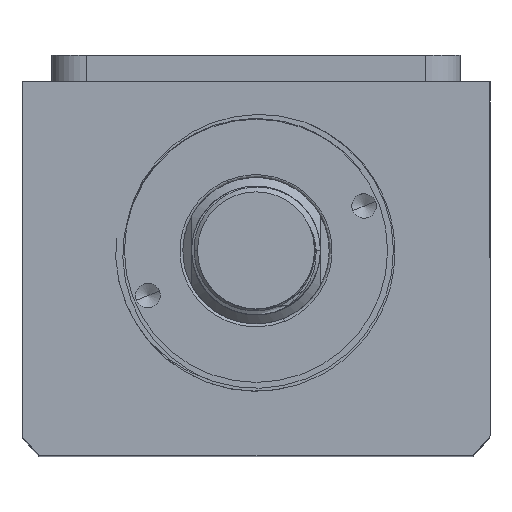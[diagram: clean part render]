
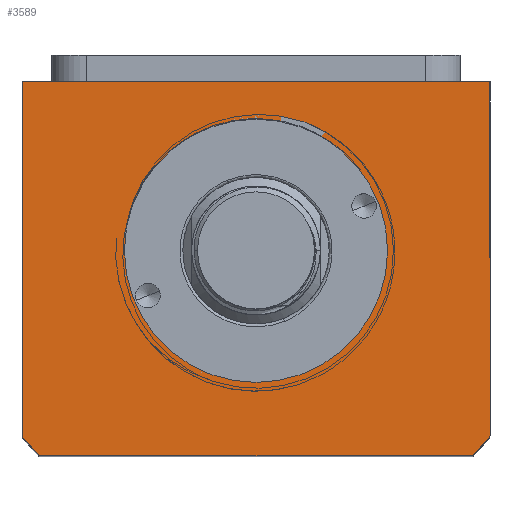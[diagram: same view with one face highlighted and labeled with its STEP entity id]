
A CAD part, top view. The second image highlights one B-rep face of the part: STEP entity #3589.
In plain terms, the highlighted planar face has unit normal (0, 0, 1).
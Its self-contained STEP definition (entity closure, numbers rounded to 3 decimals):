
#64 = DIRECTION ( 'NONE',  ( 0., 0., 1. ) ) ;
#135 = DIRECTION ( 'NONE',  ( 0., 1., 0. ) ) ;
#227 = DIRECTION ( 'NONE',  ( 0., 0., 1. ) ) ;
#416 = EDGE_CURVE ( 'NONE', #7902, #13447, #8348, .T. ) ;
#464 = CARTESIAN_POINT ( 'NONE',  ( 40., -28.639, 135. ) ) ;
#961 = DIRECTION ( 'NONE',  ( -1., 0., 0. ) ) ;
#1197 = DIRECTION ( 'NONE',  ( 1., 0., 0. ) ) ;
#1206 = ORIENTED_EDGE ( 'NONE', *, *, #11802, .T. ) ;
#1265 = ORIENTED_EDGE ( 'NONE', *, *, #2291, .T. ) ;
#1314 = CARTESIAN_POINT ( 'NONE',  ( -40., 32., 135. ) ) ;
#1422 = VERTEX_POINT ( 'NONE', #7743 ) ;
#2054 = VECTOR ( 'NONE', #3369, 1000. ) ;
#2111 = AXIS2_PLACEMENT_3D ( 'NONE', #4995, #12476, #6063 ) ;
#2291 = EDGE_CURVE ( 'NONE', #5690, #3729, #4008, .T. ) ;
#2384 = ORIENTED_EDGE ( 'NONE', *, *, #13154, .F. ) ;
#2394 = CIRCLE ( 'NONE', #3214, 51. ) ;
#2667 = CARTESIAN_POINT ( 'NONE',  ( 0., 3., 135. ) ) ;
#3093 = EDGE_CURVE ( 'NONE', #3729, #7902, #6013, .T. ) ;
#3214 = AXIS2_PLACEMENT_3D ( 'NONE', #6512, #64, #7572 ) ;
#3248 = CIRCLE ( 'NONE', #11354, 51. ) ;
#3369 = DIRECTION ( 'NONE',  ( 1., 0., 0. ) ) ;
#3589 = ADVANCED_FACE ( 'NONE', ( #9673, #12202 ), #7537, .T. ) ;
#3729 = VERTEX_POINT ( 'NONE', #7759 ) ;
#3742 = DIRECTION ( 'NONE',  ( 1., 0., 0. ) ) ;
#4008 = LINE ( 'NONE', #7640, #6853 ) ;
#4215 = VERTEX_POINT ( 'NONE', #12109 ) ;
#4995 = CARTESIAN_POINT ( 'NONE',  ( 0., 3., 135. ) ) ;
#5192 = AXIS2_PLACEMENT_3D ( 'NONE', #6678, #227, #7741 ) ;
#5310 = CARTESIAN_POINT ( 'NONE',  ( -40., -28.639, 135. ) ) ;
#5385 = VERTEX_POINT ( 'NONE', #10825 ) ;
#5405 = CARTESIAN_POINT ( 'NONE',  ( -40., 32., 135. ) ) ;
#5443 = DIRECTION ( 'NONE',  ( 0., -1., 0. ) ) ;
#5690 = VERTEX_POINT ( 'NONE', #464 ) ;
#6013 = LINE ( 'NONE', #7389, #11704 ) ;
#6063 = DIRECTION ( 'NONE',  ( 1., 0., 0. ) ) ;
#6110 = CIRCLE ( 'NONE', #5192, 22.5 ) ;
#6512 = CARTESIAN_POINT ( 'NONE',  ( 0., 3., 135. ) ) ;
#6521 = AXIS2_PLACEMENT_3D ( 'NONE', #6562, #7624, #1197 ) ;
#6562 = CARTESIAN_POINT ( 'NONE',  ( 0., 0., 135. ) ) ;
#6587 = ORIENTED_EDGE ( 'NONE', *, *, #11892, .T. ) ;
#6678 = CARTESIAN_POINT ( 'NONE',  ( 0., 3., 135. ) ) ;
#6853 = VECTOR ( 'NONE', #135, 1000. ) ;
#7389 = CARTESIAN_POINT ( 'NONE',  ( -40., 32., 135. ) ) ;
#7537 = PLANE ( 'NONE',  #6521 ) ;
#7572 = DIRECTION ( 'NONE',  ( 1., 0., 0. ) ) ;
#7624 = DIRECTION ( 'NONE',  ( 0., 0., 1. ) ) ;
#7640 = CARTESIAN_POINT ( 'NONE',  ( 40., 32., 135. ) ) ;
#7667 = CARTESIAN_POINT ( 'NONE',  ( -40., -32., 135. ) ) ;
#7741 = DIRECTION ( 'NONE',  ( 1., 0., 0. ) ) ;
#7743 = CARTESIAN_POINT ( 'NONE',  ( 22.5, 3., 135. ) ) ;
#7746 = ORIENTED_EDGE ( 'NONE', *, *, #12156, .T. ) ;
#7759 = CARTESIAN_POINT ( 'NONE',  ( 40., 32., 135. ) ) ;
#7902 = VERTEX_POINT ( 'NONE', #1314 ) ;
#7954 = CIRCLE ( 'NONE', #2111, 22.5 ) ;
#8034 = VERTEX_POINT ( 'NONE', #9006 ) ;
#8348 = LINE ( 'NONE', #5405, #13735 ) ;
#9006 = CARTESIAN_POINT ( 'NONE',  ( 37.094, -32., 135. ) ) ;
#9673 = FACE_BOUND ( 'NONE', #12552, .T. ) ;
#10135 = DIRECTION ( 'NONE',  ( 0., 0., 1. ) ) ;
#10569 = EDGE_LOOP ( 'NONE', ( #12625, #1206, #6587, #7746, #1265, #11066 ) ) ;
#10825 = CARTESIAN_POINT ( 'NONE',  ( -37.094, -32., 135. ) ) ;
#11066 = ORIENTED_EDGE ( 'NONE', *, *, #3093, .T. ) ;
#11104 = EDGE_CURVE ( 'NONE', #4215, #1422, #6110, .T. ) ;
#11354 = AXIS2_PLACEMENT_3D ( 'NONE', #2667, #10135, #3742 ) ;
#11704 = VECTOR ( 'NONE', #961, 1000. ) ;
#11802 = EDGE_CURVE ( 'NONE', #13447, #5385, #2394, .T. ) ;
#11892 = EDGE_CURVE ( 'NONE', #5385, #8034, #13130, .T. ) ;
#12109 = CARTESIAN_POINT ( 'NONE',  ( -22.5, 3., 135. ) ) ;
#12156 = EDGE_CURVE ( 'NONE', #8034, #5690, #3248, .T. ) ;
#12202 = FACE_OUTER_BOUND ( 'NONE', #10569, .T. ) ;
#12476 = DIRECTION ( 'NONE',  ( 0., 0., 1. ) ) ;
#12552 = EDGE_LOOP ( 'NONE', ( #2384, #13470 ) ) ;
#12625 = ORIENTED_EDGE ( 'NONE', *, *, #416, .T. ) ;
#13130 = LINE ( 'NONE', #7667, #2054 ) ;
#13154 = EDGE_CURVE ( 'NONE', #1422, #4215, #7954, .T. ) ;
#13447 = VERTEX_POINT ( 'NONE', #5310 ) ;
#13470 = ORIENTED_EDGE ( 'NONE', *, *, #11104, .F. ) ;
#13735 = VECTOR ( 'NONE', #5443, 1000. ) ;
